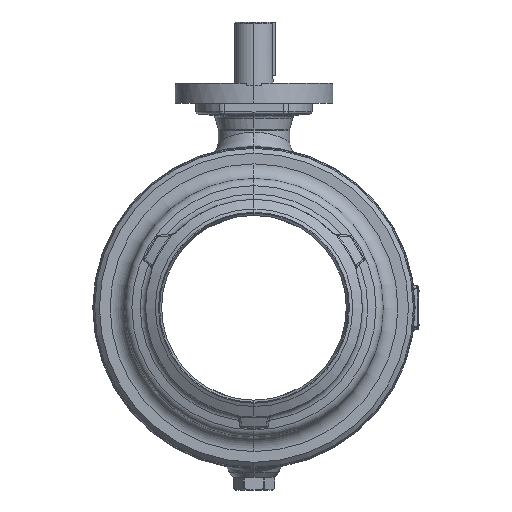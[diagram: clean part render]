
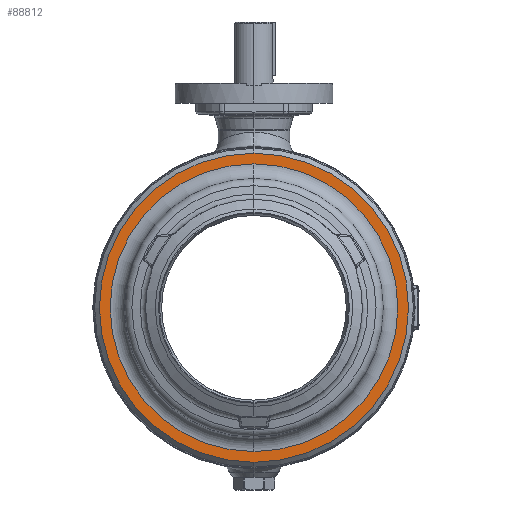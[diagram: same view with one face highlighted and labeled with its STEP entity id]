
A CAD part, left-side view. The second image highlights one B-rep face of the part: STEP entity #88812.
In plain terms, the highlighted planar face has unit normal (-1, 0, 0).
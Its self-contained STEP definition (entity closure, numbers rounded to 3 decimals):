
#24728=CARTESIAN_POINT('',(-175.5,0.,0.));
#24729=DIRECTION('',(-1.,0.,0.));
#24730=DIRECTION('',(0.,0.,1.));
#24731=AXIS2_PLACEMENT_3D('',#24728,#24729,#24730);
#24733=CARTESIAN_POINT('',(-175.5,0.,0.));
#24734=DIRECTION('',(-1.,0.,0.));
#24735=DIRECTION('',(0.,0.,-1.));
#24736=AXIS2_PLACEMENT_3D('',#24733,#24734,#24735);
#24738=CARTESIAN_POINT('',(-175.5,0.,0.));
#24739=DIRECTION('',(1.,0.,0.));
#24740=DIRECTION('',(0.,0.,-1.));
#24741=AXIS2_PLACEMENT_3D('',#24738,#24739,#24740);
#24743=CARTESIAN_POINT('',(-175.5,0.,0.));
#24744=DIRECTION('',(1.,0.,0.));
#24745=DIRECTION('',(0.,0.,1.));
#24746=AXIS2_PLACEMENT_3D('',#24743,#24744,#24745);
#33636=CARTESIAN_POINT('',(-175.5,0.,-296.));
#33637=CARTESIAN_POINT('',(-175.5,0.,296.));
#33638=VERTEX_POINT('',#33636);
#33639=VERTEX_POINT('',#33637);
#33893=CARTESIAN_POINT('',(-175.5,0.,318.));
#33894=CARTESIAN_POINT('',(-175.5,0.,-318.));
#33895=VERTEX_POINT('',#33893);
#33896=VERTEX_POINT('',#33894);
#88797=CARTESIAN_POINT('',(-175.5,0.,0.));
#88798=DIRECTION('',(-1.,0.,0.));
#88799=DIRECTION('',(0.,0.,1.));
#88800=AXIS2_PLACEMENT_3D('',#88797,#88798,#88799);
#88801=PLANE('',#88800);
#88803=ORIENTED_EDGE('',*,*,#88802,.F.);
#88805=ORIENTED_EDGE('',*,*,#88804,.F.);
#88806=EDGE_LOOP('',(#88803,#88805));
#88807=FACE_OUTER_BOUND('',#88806,.F.);
#88808=ORIENTED_EDGE('',*,*,#88779,.F.);
#88809=ORIENTED_EDGE('',*,*,#88764,.F.);
#88810=EDGE_LOOP('',(#88808,#88809));
#88811=FACE_BOUND('',#88810,.F.);
#88812=ADVANCED_FACE('',(#88807,#88811),#88801,.T.);
#24732=CIRCLE('',#24731,318.);
#24737=CIRCLE('',#24736,318.);
#24742=CIRCLE('',#24741,296.);
#24747=CIRCLE('',#24746,296.);
#88764=EDGE_CURVE('',#33639,#33638,#24747,.T.);
#88779=EDGE_CURVE('',#33638,#33639,#24742,.T.);
#88802=EDGE_CURVE('',#33895,#33896,#24732,.T.);
#88804=EDGE_CURVE('',#33896,#33895,#24737,.T.);
